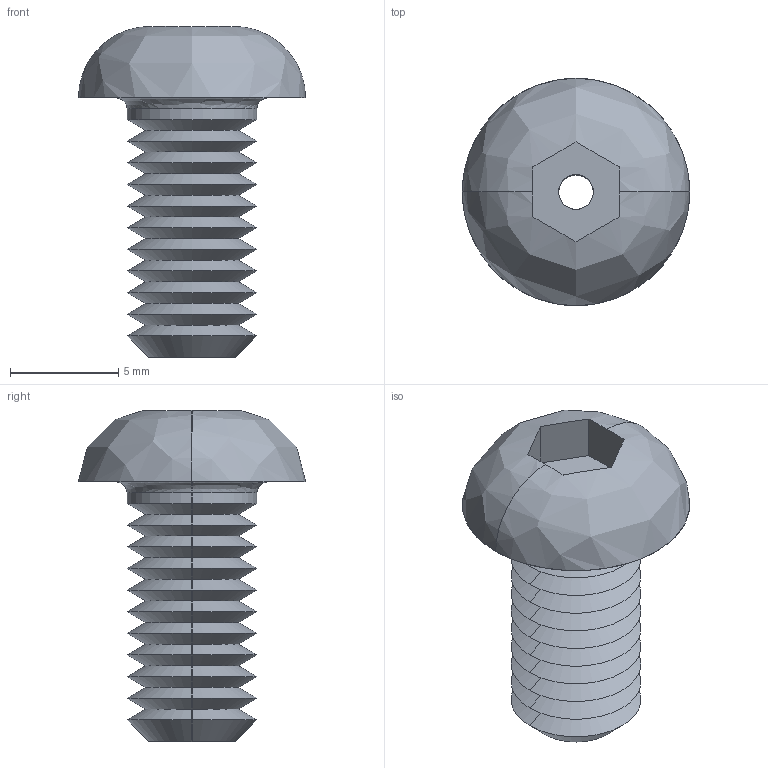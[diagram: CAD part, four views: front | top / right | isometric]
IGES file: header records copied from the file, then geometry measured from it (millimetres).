
Start section: SolidWorks IGES file using analytic representation for surfaces
Global section: file name: C:\Users\liam_\OneDrive\Documents\WORK\Work for WixRoyd\Job Files\J-00019 - Matt Davis CAD Checking\04. CAD Drawings\automotion20190605\P0094_v2\P0094_v2_20190712_IGES\P0094.060-012-A2.igs; native system: SolidWorks 2017; preprocessor: SolidWorks 2017; author: liam_; date: 190712.175512; units: millimetre
Bounding box: 10.5 x 10.5 x 15.3 mm (x, y, z)
Surface area: 665.6 mm2 (no closed solid volume)
Topology: 0 solids, 0 shells, 59 faces, 398 edges, 398 vertices
Faces by surface type: revolution 46, bspline 13
